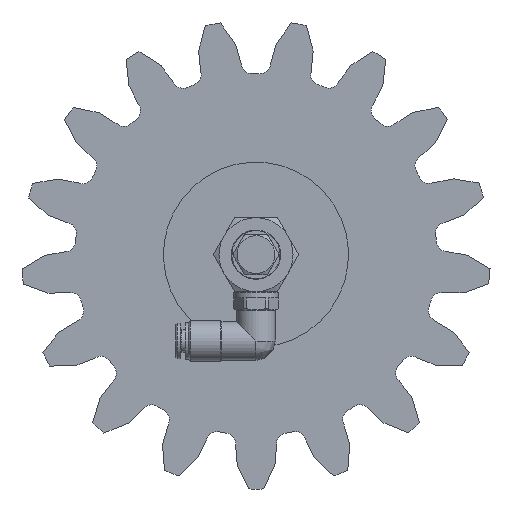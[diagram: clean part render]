
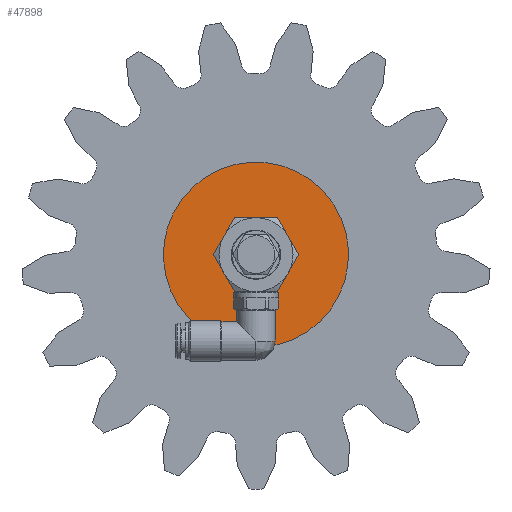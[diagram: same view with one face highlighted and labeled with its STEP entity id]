
A CAD part, front view. The second image highlights one B-rep face of the part: STEP entity #47898.
In plain terms, the highlighted planar face has unit normal (0, -1, 0) as drawn and (0, 0, 1) by its records, which use the part's own axes.
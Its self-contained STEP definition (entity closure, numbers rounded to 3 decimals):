
#1415 = DIRECTION ( 'NONE',  ( 0., 0., 1. ) ) ;
#1522 = EDGE_CURVE ( 'NONE', #36300, #36300, #38965, .T. ) ;
#4676 = PLANE ( 'NONE',  #10587 ) ;
#6315 = EDGE_CURVE ( 'NONE', #9736, #9736, #9264, .T. ) ;
#7926 = ORIENTED_EDGE ( 'NONE', *, *, #1522, .F. ) ;
#8327 = AXIS2_PLACEMENT_3D ( 'NONE', #46169, #1415, #23579 ) ;
#9264 = CIRCLE ( 'NONE', #10812, 30. ) ;
#9506 = CARTESIAN_POINT ( 'NONE',  ( 30., 0., 0. ) ) ;
#9736 = VERTEX_POINT ( 'NONE', #9506 ) ;
#10587 = AXIS2_PLACEMENT_3D ( 'NONE', #38363, #27060, #37882 ) ;
#10812 = AXIS2_PLACEMENT_3D ( 'NONE', #15766, #45741, #12059 ) ;
#12059 = DIRECTION ( 'NONE',  ( 1., 0., 0. ) ) ;
#12281 = FACE_OUTER_BOUND ( 'NONE', #16856, .T. ) ;
#15766 = CARTESIAN_POINT ( 'NONE',  ( 0., 0., 0. ) ) ;
#16856 = EDGE_LOOP ( 'NONE', ( #23889 ) ) ;
#20361 = CARTESIAN_POINT ( 'NONE',  ( 5.286, 0., 0. ) ) ;
#23579 = DIRECTION ( 'NONE',  ( 1., 0., 0. ) ) ;
#23889 = ORIENTED_EDGE ( 'NONE', *, *, #6315, .T. ) ;
#27060 = DIRECTION ( 'NONE',  ( 0., 0., -1. ) ) ;
#31789 = EDGE_LOOP ( 'NONE', ( #7926 ) ) ;
#36300 = VERTEX_POINT ( 'NONE', #20361 ) ;
#37882 = DIRECTION ( 'NONE',  ( -1., 0., 0. ) ) ;
#38363 = CARTESIAN_POINT ( 'NONE',  ( 0., 30., 0. ) ) ;
#38965 = CIRCLE ( 'NONE', #8327, 5.286 ) ;
#45726 = FACE_BOUND ( 'NONE', #31789, .T. ) ;
#45741 = DIRECTION ( 'NONE',  ( 0., 0., 1. ) ) ;
#46169 = CARTESIAN_POINT ( 'NONE',  ( 0., 0., 0. ) ) ;
#47898 = ADVANCED_FACE ( 'NONE', ( #45726, #12281 ), #4676, .F. ) ;
